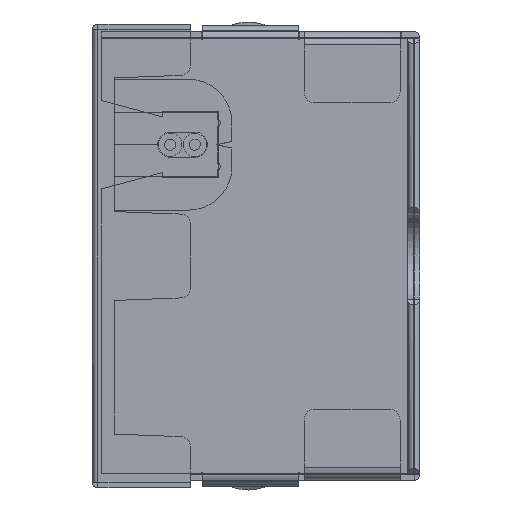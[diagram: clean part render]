
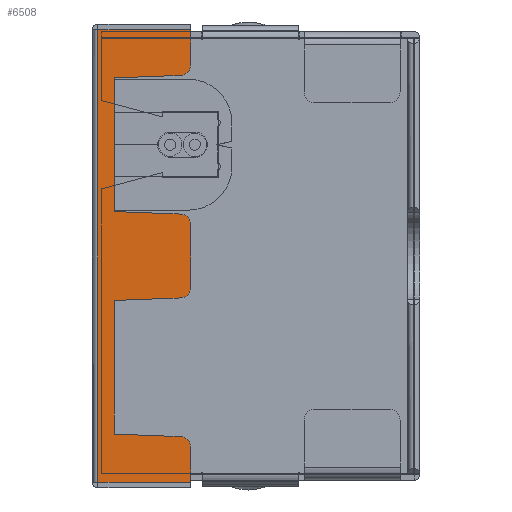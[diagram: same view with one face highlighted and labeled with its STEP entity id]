
A CAD part, left-side view. The second image highlights one B-rep face of the part: STEP entity #6508.
In plain terms, the highlighted planar face has unit normal (-1, 0, 0).
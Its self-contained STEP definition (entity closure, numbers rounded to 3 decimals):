
#19 = DIRECTION ( 'NONE',  ( 0., 0., -1. ) ) ;
#46 = CARTESIAN_POINT ( 'NONE',  ( -69.4, -1.5, 4.075 ) ) ;
#78 = ORIENTED_EDGE ( 'NONE', *, *, #5805, .T. ) ;
#87 = LINE ( 'NONE', #1813, #4428 ) ;
#299 = LINE ( 'NONE', #14139, #1315 ) ;
#353 = DIRECTION ( 'NONE',  ( 0., 0., -1. ) ) ;
#595 = CIRCLE ( 'NONE', #15661, 0.9 ) ;
#666 = CARTESIAN_POINT ( 'NONE',  ( -69.4, 0., -20.74 ) ) ;
#735 = ORIENTED_EDGE ( 'NONE', *, *, #16419, .T. ) ;
#829 = CARTESIAN_POINT ( 'NONE',  ( -69.4, -8.5, -17.46 ) ) ;
#900 = ORIENTED_EDGE ( 'NONE', *, *, #11687, .T. ) ;
#944 = DIRECTION ( 'NONE',  ( 0., 0., 1. ) ) ;
#984 = DIRECTION ( 'NONE',  ( -1., 0., 0. ) ) ;
#990 = ORIENTED_EDGE ( 'NONE', *, *, #6912, .F. ) ;
#1100 = AXIS2_PLACEMENT_3D ( 'NONE', #9869, #6109, #16705 ) ;
#1221 = LINE ( 'NONE', #16822, #14064 ) ;
#1238 = AXIS2_PLACEMENT_3D ( 'NONE', #666, #10010, #9952 ) ;
#1315 = VECTOR ( 'NONE', #6216, 1000. ) ;
#1400 = CARTESIAN_POINT ( 'NONE',  ( -69.4, -7.6, -17.46 ) ) ;
#1473 = LINE ( 'NONE', #9640, #14726 ) ;
#1513 = VECTOR ( 'NONE', #353, 1000. ) ;
#1669 = AXIS2_PLACEMENT_3D ( 'NONE', #10382, #16914, #14300 ) ;
#1813 = CARTESIAN_POINT ( 'NONE',  ( -69.4, -8.5, -20.74 ) ) ;
#1910 = ORIENTED_EDGE ( 'NONE', *, *, #14632, .F. ) ;
#2063 = DIRECTION ( 'NONE',  ( 0., -0.999, 0.038 ) ) ;
#2123 = CARTESIAN_POINT ( 'NONE',  ( -69.4, -8.5, -20.74 ) ) ;
#2911 = CARTESIAN_POINT ( 'NONE',  ( -69.4, -1.5, -16.325 ) ) ;
#2961 = LINE ( 'NONE', #3051, #14136 ) ;
#3051 = CARTESIAN_POINT ( 'NONE',  ( -69.4, -8.5, 20.74 ) ) ;
#3161 = CARTESIAN_POINT ( 'NONE',  ( -69.4, -0.01, -20.74 ) ) ;
#3215 = CARTESIAN_POINT ( 'NONE',  ( -69.4, -8.5, 16.594 ) ) ;
#3396 = CARTESIAN_POINT ( 'NONE',  ( -69.4, -1.5, -16.325 ) ) ;
#3401 = VECTOR ( 'NONE', #2063, 1000. ) ;
#3526 = VERTEX_POINT ( 'NONE', #6846 ) ;
#3838 = CARTESIAN_POINT ( 'NONE',  ( -69.4, -8.5, 2.94 ) ) ;
#3951 = ORIENTED_EDGE ( 'NONE', *, *, #10793, .F. ) ;
#4178 = CARTESIAN_POINT ( 'NONE',  ( -69.4, -0.01, -20.74 ) ) ;
#4206 = VERTEX_POINT ( 'NONE', #4224 ) ;
#4213 = LINE ( 'NONE', #2911, #1513 ) ;
#4224 = CARTESIAN_POINT ( 'NONE',  ( -69.4, -1.5, 16.325 ) ) ;
#4428 = VECTOR ( 'NONE', #4475, 1000. ) ;
#4475 = DIRECTION ( 'NONE',  ( 0., 0., -1. ) ) ;
#4551 = CARTESIAN_POINT ( 'NONE',  ( -69.4, -7.635, 16.561 ) ) ;
#4586 = VECTOR ( 'NONE', #9569, 1000. ) ;
#5057 = VERTEX_POINT ( 'NONE', #12542 ) ;
#5268 = EDGE_CURVE ( 'NONE', #8607, #4206, #1221, .T. ) ;
#5369 = EDGE_CURVE ( 'NONE', #8965, #14223, #595, .T. ) ;
#5772 = ORIENTED_EDGE ( 'NONE', *, *, #12846, .F. ) ;
#5805 = EDGE_CURVE ( 'NONE', #11868, #14572, #10136, .T. ) ;
#6109 = DIRECTION ( 'NONE',  ( -1., 0., 0. ) ) ;
#6216 = DIRECTION ( 'NONE',  ( 0., 0.999, -0.038 ) ) ;
#6508 = ADVANCED_FACE ( 'NONE', ( #12161 ), #14054, .T. ) ;
#6591 = VERTEX_POINT ( 'NONE', #3396 ) ;
#6722 = VECTOR ( 'NONE', #9314, 1000. ) ;
#6779 = CARTESIAN_POINT ( 'NONE',  ( -69.4, -8.5, 17.46 ) ) ;
#6846 = CARTESIAN_POINT ( 'NONE',  ( -69.4, -1.5, -4.075 ) ) ;
#6863 = VECTOR ( 'NONE', #11447, 1000. ) ;
#6912 = EDGE_CURVE ( 'NONE', #8344, #11536, #1473, .T. ) ;
#6949 = ORIENTED_EDGE ( 'NONE', *, *, #12995, .T. ) ;
#7072 = ORIENTED_EDGE ( 'NONE', *, *, #14298, .T. ) ;
#7073 = LINE ( 'NONE', #16480, #11650 ) ;
#7814 = CARTESIAN_POINT ( 'NONE',  ( -69.4, -7.6, 17.46 ) ) ;
#8091 = DIRECTION ( 'NONE',  ( 0., -1., 0. ) ) ;
#8251 = DIRECTION ( 'NONE',  ( 0., 1., 0. ) ) ;
#8344 = VERTEX_POINT ( 'NONE', #2123 ) ;
#8377 = VERTEX_POINT ( 'NONE', #15265 ) ;
#8607 = VERTEX_POINT ( 'NONE', #46 ) ;
#8686 = AXIS2_PLACEMENT_3D ( 'NONE', #7814, #984, #8091 ) ;
#8965 = VERTEX_POINT ( 'NONE', #829 ) ;
#9166 = CARTESIAN_POINT ( 'NONE',  ( -69.4, -8.5, -20.74 ) ) ;
#9199 = ORIENTED_EDGE ( 'NONE', *, *, #11438, .F. ) ;
#9211 = LINE ( 'NONE', #3215, #3401 ) ;
#9224 = DIRECTION ( 'NONE',  ( 0., -1., 0. ) ) ;
#9245 = VECTOR ( 'NONE', #19, 1000. ) ;
#9314 = DIRECTION ( 'NONE',  ( 0., 0., -1. ) ) ;
#9569 = DIRECTION ( 'NONE',  ( 0., 0., -1. ) ) ;
#9625 = ORIENTED_EDGE ( 'NONE', *, *, #12095, .F. ) ;
#9640 = CARTESIAN_POINT ( 'NONE',  ( -69.4, 0., -20.74 ) ) ;
#9869 = CARTESIAN_POINT ( 'NONE',  ( -69.4, -7.6, -2.94 ) ) ;
#9918 = ORIENTED_EDGE ( 'NONE', *, *, #14858, .F. ) ;
#9952 = DIRECTION ( 'NONE',  ( 0., -1., 0. ) ) ;
#10010 = DIRECTION ( 'NONE',  ( -1., 0., 0. ) ) ;
#10136 = CIRCLE ( 'NONE', #1669, 0.9 ) ;
#10382 = CARTESIAN_POINT ( 'NONE',  ( -69.4, -7.6, 2.94 ) ) ;
#10615 = VERTEX_POINT ( 'NONE', #14258 ) ;
#10793 = EDGE_CURVE ( 'NONE', #8965, #8344, #11320, .T. ) ;
#11088 = CIRCLE ( 'NONE', #8686, 0.9 ) ;
#11320 = LINE ( 'NONE', #9166, #9245 ) ;
#11438 = EDGE_CURVE ( 'NONE', #11868, #17131, #12334, .T. ) ;
#11447 = DIRECTION ( 'NONE',  ( 0., 0.999, 0.038 ) ) ;
#11536 = VERTEX_POINT ( 'NONE', #3161 ) ;
#11644 = CARTESIAN_POINT ( 'NONE',  ( -69.4, -7.635, -16.561 ) ) ;
#11650 = VECTOR ( 'NONE', #15318, 1000. ) ;
#11687 = EDGE_CURVE ( 'NONE', #4206, #11695, #9211, .T. ) ;
#11695 = VERTEX_POINT ( 'NONE', #4551 ) ;
#11714 = EDGE_CURVE ( 'NONE', #8377, #17131, #15827, .T. ) ;
#11868 = VERTEX_POINT ( 'NONE', #3838 ) ;
#11969 = VERTEX_POINT ( 'NONE', #6779 ) ;
#12012 = ORIENTED_EDGE ( 'NONE', *, *, #11714, .T. ) ;
#12095 = EDGE_CURVE ( 'NONE', #3526, #6591, #4213, .T. ) ;
#12161 = FACE_OUTER_BOUND ( 'NONE', #12232, .T. ) ;
#12232 = EDGE_LOOP ( 'NONE', ( #9199, #78, #6949, #12850, #900, #7072, #1910, #14697, #735, #990, #3951, #15765, #5772, #9625, #9918, #12012 ) ) ;
#12334 = LINE ( 'NONE', #13301, #6722 ) ;
#12452 = CARTESIAN_POINT ( 'NONE',  ( -69.4, -7.635, 3.839 ) ) ;
#12542 = CARTESIAN_POINT ( 'NONE',  ( -69.4, -8.5, 20.74 ) ) ;
#12676 = LINE ( 'NONE', #4178, #4586 ) ;
#12846 = EDGE_CURVE ( 'NONE', #6591, #14223, #7073, .T. ) ;
#12850 = ORIENTED_EDGE ( 'NONE', *, *, #5268, .T. ) ;
#12995 = EDGE_CURVE ( 'NONE', #14572, #8607, #13910, .T. ) ;
#13301 = CARTESIAN_POINT ( 'NONE',  ( -69.4, -8.5, -20.74 ) ) ;
#13910 = LINE ( 'NONE', #14284, #6863 ) ;
#14054 = PLANE ( 'NONE',  #1238 ) ;
#14064 = VECTOR ( 'NONE', #944, 1000. ) ;
#14136 = VECTOR ( 'NONE', #16185, 1000. ) ;
#14139 = CARTESIAN_POINT ( 'NONE',  ( -69.4, -1.5, -4.075 ) ) ;
#14223 = VERTEX_POINT ( 'NONE', #11644 ) ;
#14258 = CARTESIAN_POINT ( 'NONE',  ( -69.4, -0.01, 20.74 ) ) ;
#14284 = CARTESIAN_POINT ( 'NONE',  ( -69.4, -1.5, 4.075 ) ) ;
#14298 = EDGE_CURVE ( 'NONE', #11695, #11969, #11088, .T. ) ;
#14300 = DIRECTION ( 'NONE',  ( 0., -1., 0. ) ) ;
#14437 = DIRECTION ( 'NONE',  ( -1., 0., 0. ) ) ;
#14572 = VERTEX_POINT ( 'NONE', #12452 ) ;
#14632 = EDGE_CURVE ( 'NONE', #5057, #11969, #87, .T. ) ;
#14697 = ORIENTED_EDGE ( 'NONE', *, *, #15808, .F. ) ;
#14726 = VECTOR ( 'NONE', #8251, 1000. ) ;
#14858 = EDGE_CURVE ( 'NONE', #8377, #3526, #299, .T. ) ;
#15265 = CARTESIAN_POINT ( 'NONE',  ( -69.4, -7.635, -3.839 ) ) ;
#15318 = DIRECTION ( 'NONE',  ( 0., -0.999, -0.038 ) ) ;
#15661 = AXIS2_PLACEMENT_3D ( 'NONE', #1400, #14437, #9224 ) ;
#15765 = ORIENTED_EDGE ( 'NONE', *, *, #5369, .T. ) ;
#15808 = EDGE_CURVE ( 'NONE', #10615, #5057, #2961, .T. ) ;
#15827 = CIRCLE ( 'NONE', #1100, 0.9 ) ;
#16185 = DIRECTION ( 'NONE',  ( 0., -1., 0. ) ) ;
#16419 = EDGE_CURVE ( 'NONE', #10615, #11536, #12676, .T. ) ;
#16480 = CARTESIAN_POINT ( 'NONE',  ( -69.4, -8.5, -16.594 ) ) ;
#16556 = CARTESIAN_POINT ( 'NONE',  ( -69.4, -8.5, -2.94 ) ) ;
#16705 = DIRECTION ( 'NONE',  ( 0., -1., 0. ) ) ;
#16822 = CARTESIAN_POINT ( 'NONE',  ( -69.4, -1.5, 16.325 ) ) ;
#16914 = DIRECTION ( 'NONE',  ( -1., 0., 0. ) ) ;
#17131 = VERTEX_POINT ( 'NONE', #16556 ) ;
